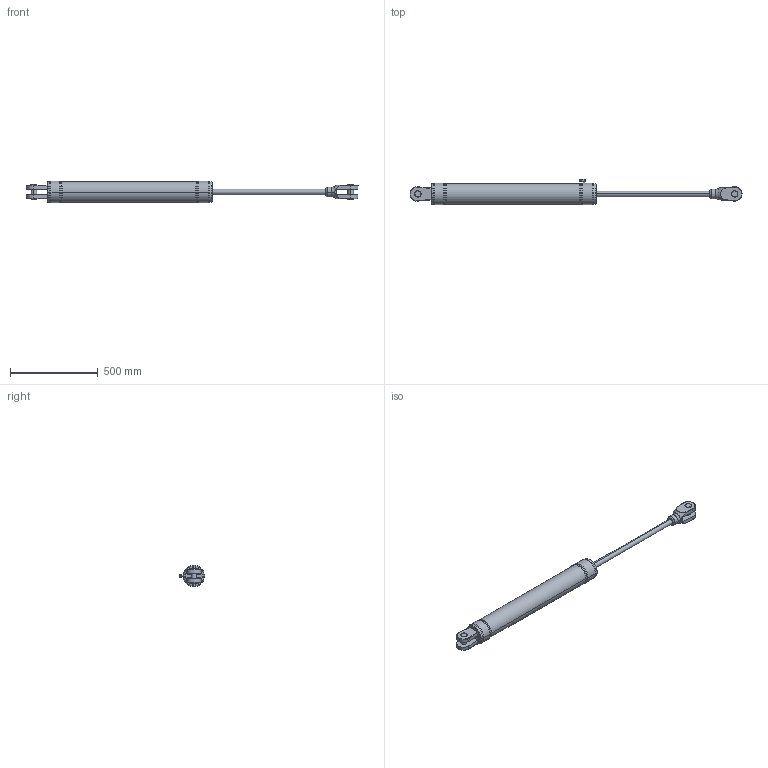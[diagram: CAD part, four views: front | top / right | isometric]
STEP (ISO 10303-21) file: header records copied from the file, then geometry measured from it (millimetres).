
FILE_DESCRIPTION (( 'STEP AP203' ), '1' );
FILE_NAME ('CL_090_S_0650.STEP', '2018-05-31T07:25:49', ( 'utente' ), ( 'Hewlett-Packard Company' ), 'SwSTEP 2.0', 'SolidWorks 2015', '' );
FILE_SCHEMA (( 'CONFIG_CONTROL_DESIGN' ));
Length unit declared in the file: millimetre
Products named in the file (1): CL_090_S_0650
Bounding box: 1894.3 x 144 x 122 mm (x, y, z)
Volume: 11909656.1 mm3; surface area: 547815.6 mm2
Topology: 1 solids, 1 shells, 209 faces, 480 edges, 288 vertices
Faces by surface type: cylinder 77, plane 71, cone 32, torus 29
Entity records: 6624 total; most frequent: CARTESIAN_POINT 1824, DIRECTION 1041, ORIENTED_EDGE 960, EDGE_CURVE 480, AXIS2_PLACEMENT_3D 423, VERTEX_POINT 288, EDGE_LOOP 228, CIRCLE 213
